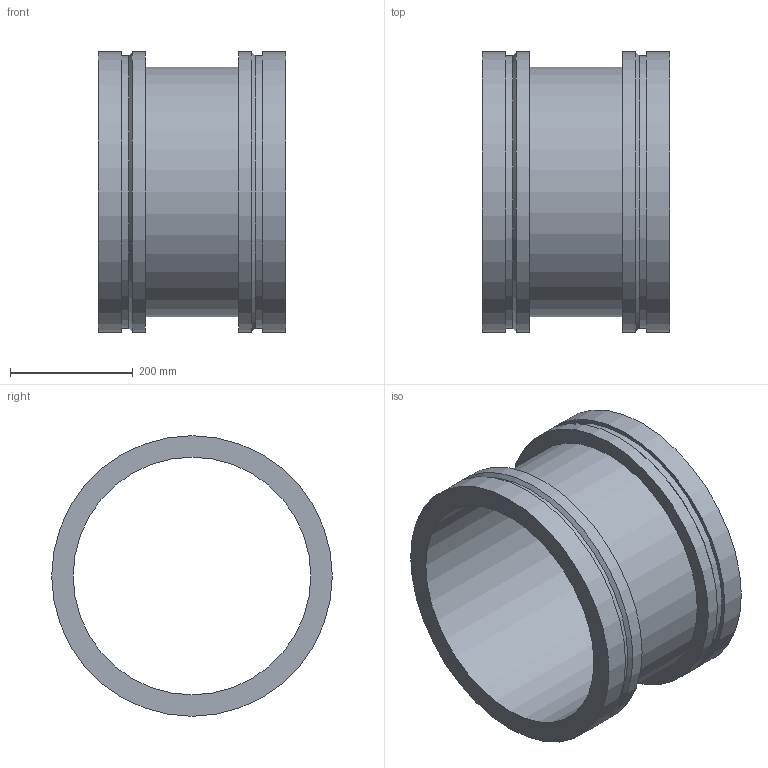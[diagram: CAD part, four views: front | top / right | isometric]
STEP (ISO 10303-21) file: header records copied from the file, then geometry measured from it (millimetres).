
FILE_DESCRIPTION(/* description */ ('VIC ADAPTER NIPPLE No W43 VR','CAx-IF Rec.Pracs.---Representation and Presentation of Product Manufacturing Information (PMI)---4.0---2014-10-13'),/* implementation_level */ '2;1');
FILE_NAME(/* name */ 'C:\Users\kkamble\AppData\Roaming\Autodesk\ApplicationPlugins\Back Up\Victaulic_Vic-Ring_Adapter Nipple_No W43 VR (AGR)\Victaulic_Vic-Ring_Adapter Nipple_No W43 VR (AGR)_16 (400).stp',/* time_stamp */ '2020-09-10T11:31:05+05:00',/* author */ ('cps_temp'),/* organization */ ('Victaulic'),/* preprocessor_version */ 'ST-DEVELOPER v17.2',/* originating_system */ 'Autodesk Inventor 2019',/* authorisation */ '');
FILE_SCHEMA (('AP242_MANAGED_MODEL_BASED_3D_ENGINEERING_MIM_LF { 1 0 10303 442 1 1 4 }'));
Length unit declared in the file: inch
Products named in the file (1): W43 VR-16.0
Bounding box: 304.8 x 457.2 x 457.2 mm (x, y, z)
Volume: 8614866 mm3; surface area: 971200.8 mm2
Topology: 1 solids, 1 shells, 16 faces, 42 edges, 32 vertices
Faces by surface type: cylinder 8, plane 6, cone 2
Full cylindrical faces by diameter (mm): 387.35 x1, 406.4 x1, 444.5 x2, 457.2 x4
Entity records: 686 total; most frequent: DIRECTION 134, CARTESIAN_POINT 108, ORIENTED_EDGE 84, AXIS2_PLACEMENT_3D 62, EDGE_CURVE 42, CIRCLE 32, VERTEX_POINT 32, EDGE_LOOP 22
